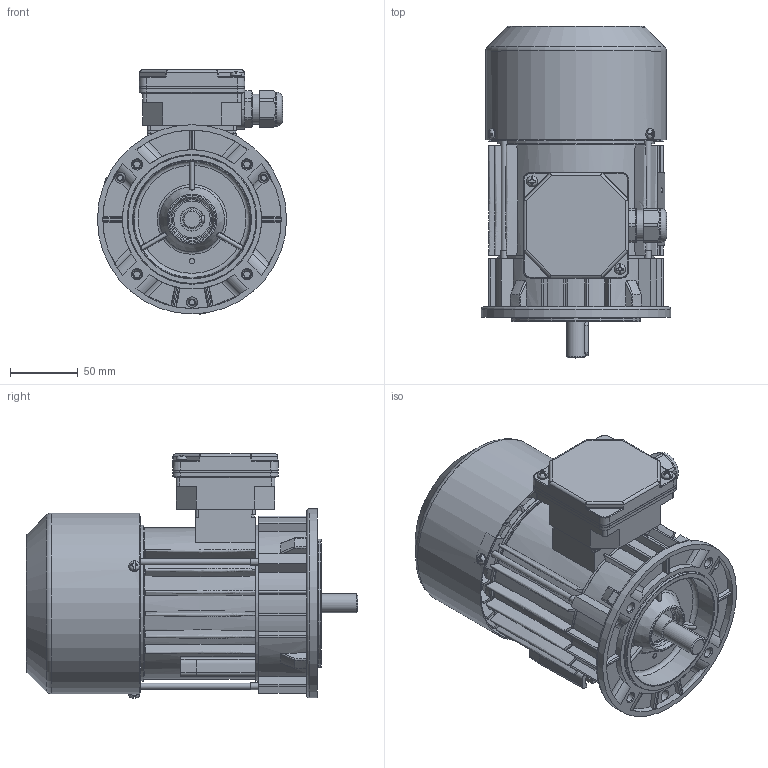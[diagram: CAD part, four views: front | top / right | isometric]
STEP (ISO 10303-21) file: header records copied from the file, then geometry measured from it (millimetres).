
FILE_DESCRIPTION(/* description */ ('Unknown'),/* implementation_level */ '2;1');
FILE_NAME(/* name */ '2SIEK71-8B1',/* time_stamp */ '2021-04-13T15:21:20+02:00',/* author */ ('Unknown'),/* organization */ ('Unknown'),/* preprocessor_version */ 'ST-DEVELOPER v16.7',/* originating_system */ 'Solid Edge',/* authorisation */ 'Unknown');
FILE_SCHEMA (('AUTOMOTIVE_DESIGN {1 0 10303 214 3 1 1}'));
Products named in the file (1): 2SIEK71-8B1
Bounding box: 139.99 x 245.47 x 180.56 mm (x, y, z)
Volume: 653323.5 mm3; surface area: 404456.8 mm2
Topology: 1 solids, 1 shells, 2386 faces, 6719 edges, 4334 vertices
Faces by surface type: plane 967, cylinder 695, bspline 340, torus 203, cone 149, sphere 32
Full cylindrical faces by diameter (mm): 2 x2, 2.4 x2, 3.7 x4, 3.8 x4, 4 x3, 4.134 x3, 4.6 x3, 4.8 x2, 5 x5, 5.499 x3, 6.799 x4, 6.999 x1, 7.999 x9, 13.999 x1, 15.898 x1, 16.098 x1, 16.498 x1, 16.998 x2, 17.398 x2, 21.998 x2, 22.298 x1, 22.498 x1, 22.998 x1, 23.098 x1, 24.496 x4, 24.997 x1, 26.997 x1, 27.997 x1, 30.997 x1, 32.499 x4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
Entity records: 85793 total; most frequent: CARTESIAN_POINT 28268, ORIENTED_EDGE 12714, DIRECTION 10991, EDGE_CURVE 6357, VERTEX_POINT 4210, AXIS2_PLACEMENT_3D 4188, FACE_BOUND 2807, EDGE_LOOP 2803
